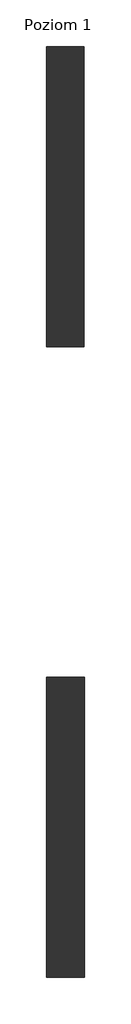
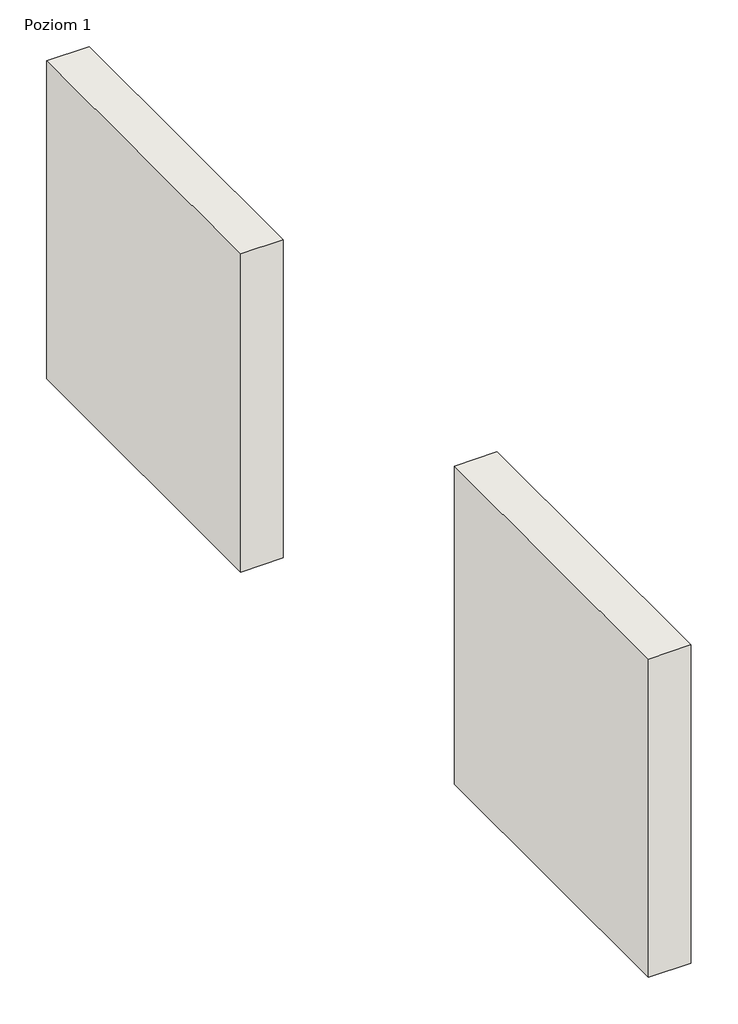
# One storey: 2 walls.
"""IFC4 building model written with IfcOpenShell, lengths in millimetres."""

from ifc_helpers import new_model, si_unit, origin, origin_with_axes, place, context, project, spatial, polyline, outline, extrude, element, save

model = new_model("IFC4")

# Units and contexts
model_context = context("Model", 3, world=origin())
ifc_project = project(units=[si_unit("LENGTHUNIT", "METRE", prefix="MILLI")], contexts=[model_context])

# Site, building, storey
site = spatial("IfcSite", under=ifc_project)
building = spatial("IfcBuilding", under=site)
storey = spatial("IfcBuildingStorey", under=building, Name="Poziom 1", Elevation=0.0)

# Walls
placement = place(None, origin())
element("IfcWall", 1, ObjectType="StarSystem - płyta EPS", at=placement, inside=storey, context=model_context, shape_type="SweptSolid", body=[
    extrude(outline(polyline([(71650.6565353, -54951.5795463), (71650.6565353, -50951.5795463), (72155.6565353, -50951.5795463), (72155.6565353, -54951.5795463), (71650.6565353, -54951.5795463)])), origin_with_axes(), (0.0, 0.0, 1.0), 4000.0),
])
element("IfcWall", 2, ObjectType="StarSystem - wełna mineralna", at=placement, inside=storey, context=model_context, shape_type="SweptSolid", body=[
    extrude(outline(polyline([(71650.1565353, -63351.5795463), (71650.1565353, -59351.5795463), (72156.1565353, -59351.5795463), (72156.1565353, -63351.5795463), (71650.1565353, -63351.5795463)])), origin_with_axes(), (0.0, 0.0, 1.0), 4000.0),
])

save(model, "model.ifc")
